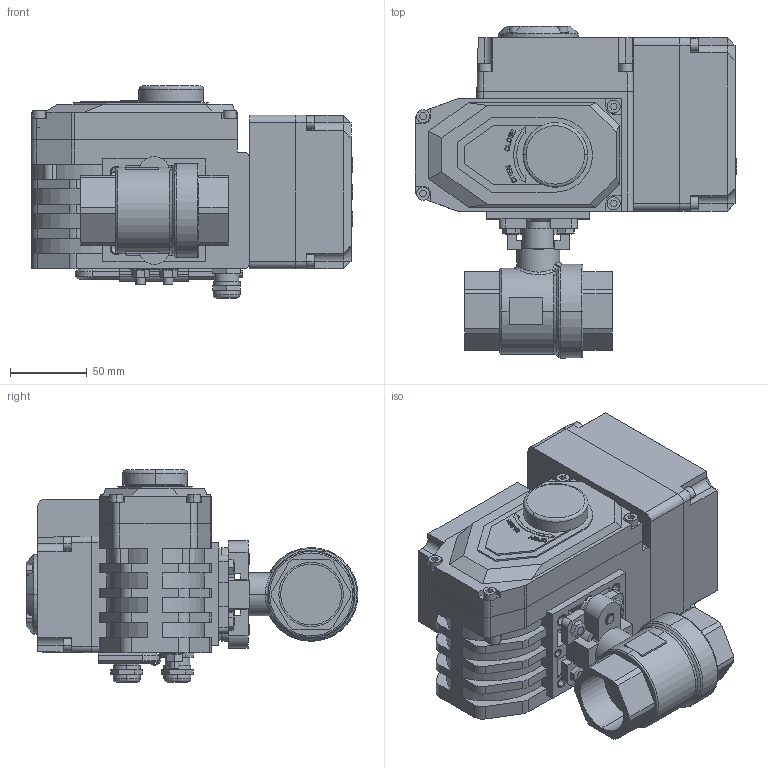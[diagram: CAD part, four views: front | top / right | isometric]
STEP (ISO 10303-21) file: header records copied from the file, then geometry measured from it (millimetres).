
FILE_DESCRIPTION((''),'2;1');
FILE_NAME('BV-21F_EAR_A_ASM','2025-03-02T',('AMD'),(''),'PRO/ENGINEER BY PARAMETRIC TECHNOLOGY CORPORATION, 2008020','PRO/ENGINEER BY PARAMETRIC TECHNOLOGY CORPORATION, 2008020','');
FILE_SCHEMA(('CONFIG_CONTROL_DESIGN'));
Length unit declared in the file: millimetre
Products named in the file (19): KORPUS_KRANA; SHAIBA_KRANA; VINT_KRANA; SB_KRAN_ASM; DET_1; V-11738-M5; V-11738-M4; DET_2; KREPLENIE; KLUCH; DET_3; G-5915-M6; ELECTROPRIVOD_ASM; DET_4; DET_5; DISPLAY_ASM; ELECTROPRIVOD_WITH_DISPLAY_ASM; B-7798-M6-20; BV-21F_EAR_A_ASM
Assembly tree (37 placements, depth 4):
  BV-21F_EAR_A_ASM
    SB_KRAN_ASM
      KORPUS_KRANA
      SHAIBA_KRANA
      VINT_KRANA  x2
    ELECTROPRIVOD_WITH_DISPLAY_ASM
      ELECTROPRIVOD_ASM
        DET_1
        V-11738-M5  x8
        V-11738-M4  x4
        DET_2
        KREPLENIE
        KLUCH
        DET_3
        G-5915-M6  x2
      DISPLAY_ASM
        DET_4
        DET_5
        V-11738-M5  x4
    B-7798-M6-20  x4
Bounding box: 209 x 216 x 138 mm (x, y, z)
Volume: 2275909.5 mm3; surface area: 282820.4 mm2
Topology: 33 solids, 75 shells, 2420 faces, 6441 edges, 4244 vertices
Faces by surface type: plane 1619, cylinder 380, extrusion 300, cone 87, torus 20, bspline 12, sphere 2
Entity records: 67605 total; most frequent: CARTESIAN_POINT 14882, ORIENTED_EDGE 11242, DIRECTION 9757, EDGE_CURVE 5669, VECTOR 4603, LINE 4303, VERTEX_POINT 3750, AXIS2_PLACEMENT_3D 2577
